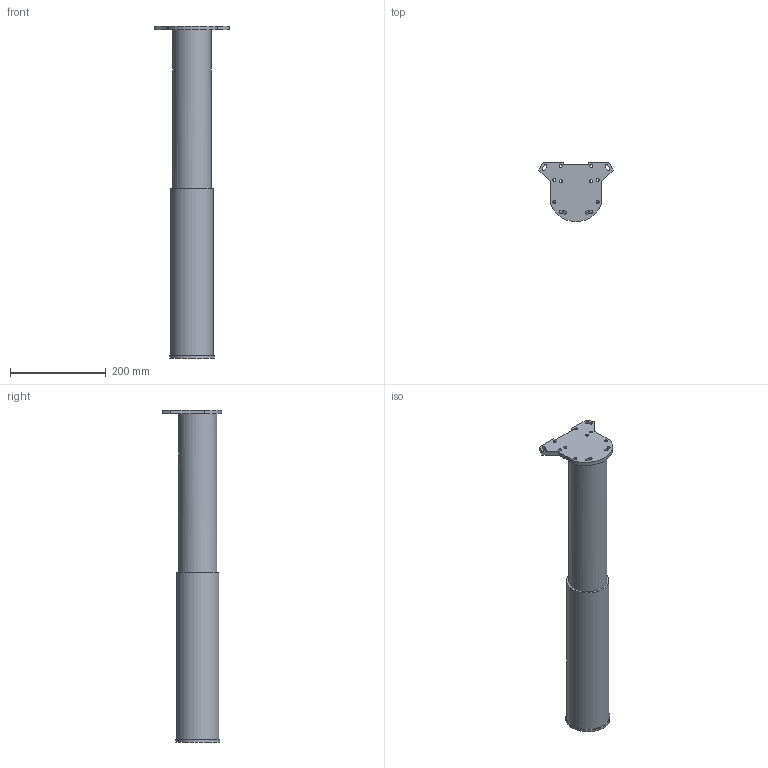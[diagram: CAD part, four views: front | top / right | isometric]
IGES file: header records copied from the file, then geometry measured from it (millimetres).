
Start section: Data from Parasolid IGES Translator 20.0.26, Copyright(c) 2006 Siemens P LM Software. All Rights Reserved.
Global section: file name: 46063.igs; native system: By Siemens PLM Incorporated; preprocessor: XPlus GENERIC/IGES 20.0.26; author: Noname; organization: Noname; date: 20210810.180731; units: millimetre
Bounding box: 155.69 x 124 x 695 mm (x, y, z)
Surface area: 217672.5 mm2 (no closed solid volume)
Topology: 0 solids, 0 shells, 50 faces, 274 edges, 257 vertices
Faces by surface type: extrusion 26, revolution 24
